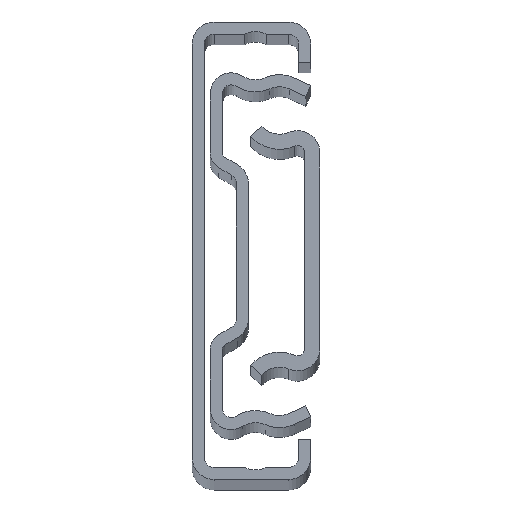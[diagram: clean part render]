
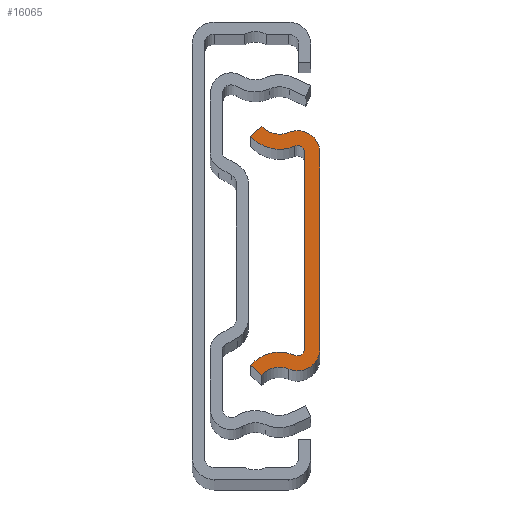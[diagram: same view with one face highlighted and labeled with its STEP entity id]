
A CAD part, top view. The second image highlights one B-rep face of the part: STEP entity #16065.
In plain terms, the highlighted planar face has unit normal (0, 0, 1).
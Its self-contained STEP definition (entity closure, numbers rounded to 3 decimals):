
#50 = EDGE_CURVE ( 'NONE', #3070, #2771, #9193, .T. ) ;
#151 = CARTESIAN_POINT ( 'NONE',  ( 3.45, -9.725, 0. ) ) ;
#260 = CARTESIAN_POINT ( 'NONE',  ( -3.45, -11.377, 0. ) ) ;
#686 = CARTESIAN_POINT ( 'NONE',  ( 0.36, -11.777, 0. ) ) ;
#710 = ORIENTED_EDGE ( 'NONE', *, *, #16009, .T. ) ;
#854 = DIRECTION ( 'NONE',  ( -1., 0., 0. ) ) ;
#921 = DIRECTION ( 'NONE',  ( -1., 0., 0. ) ) ;
#976 = AXIS2_PLACEMENT_3D ( 'NONE', #27260, #14117, #921 ) ;
#995 = VECTOR ( 'NONE', #4354, 1000. ) ;
#1054 = CIRCLE ( 'NONE', #13595, 2.226 ) ;
#1406 = DIRECTION ( 'NONE',  ( -0.745, -0.667, 0. ) ) ;
#1618 = CARTESIAN_POINT ( 'NONE',  ( 1.95, 9.725, 0. ) ) ;
#2044 = VECTOR ( 'NONE', #1406, 1000. ) ;
#2048 = ORIENTED_EDGE ( 'NONE', *, *, #21865, .T. ) ;
#2589 = LINE ( 'NONE', #151, #2620 ) ;
#2620 = VECTOR ( 'NONE', #17775, 1000. ) ;
#2675 = DIRECTION ( 'NONE',  ( 0., 0., -1. ) ) ;
#2771 = VERTEX_POINT ( 'NONE', #27132 ) ;
#2880 = CARTESIAN_POINT ( 'NONE',  ( -2.333, 12.378, 0. ) ) ;
#3070 = VERTEX_POINT ( 'NONE', #17514 ) ;
#3150 = ORIENTED_EDGE ( 'NONE', *, *, #11811, .T. ) ;
#3722 = DIRECTION ( 'NONE',  ( 1., 0., 0. ) ) ;
#3802 = DIRECTION ( 'NONE',  ( 0., 0., -1. ) ) ;
#4124 = AXIS2_PLACEMENT_3D ( 'NONE', #9343, #2675, #854 ) ;
#4354 = DIRECTION ( 'NONE',  ( 0., -1., 0. ) ) ;
#4655 = ORIENTED_EDGE ( 'NONE', *, *, #20999, .T. ) ;
#4959 = EDGE_CURVE ( 'NONE', #10484, #6837, #25604, .T. ) ;
#5243 = DIRECTION ( 'NONE',  ( -1., 0., 0. ) ) ;
#5394 = EDGE_CURVE ( 'NONE', #6837, #20802, #18077, .T. ) ;
#5418 = AXIS2_PLACEMENT_3D ( 'NONE', #25075, #17717, #15697 ) ;
#5489 = DIRECTION ( 'NONE',  ( 0., 0., 1. ) ) ;
#5522 = CARTESIAN_POINT ( 'NONE',  ( 3.45, -9.725, 0. ) ) ;
#5645 = CIRCLE ( 'NONE', #4124, 0.726 ) ;
#5875 = DIRECTION ( 'NONE',  ( 0., 0., -1. ) ) ;
#6517 = VECTOR ( 'NONE', #6645, 1000. ) ;
#6637 = AXIS2_PLACEMENT_3D ( 'NONE', #12794, #5875, #3722 ) ;
#6641 = VERTEX_POINT ( 'NONE', #1618 ) ;
#6645 = DIRECTION ( 'NONE',  ( 0.745, -0.667, 0. ) ) ;
#6689 = CARTESIAN_POINT ( 'NONE',  ( 1.224, -9.725, 0. ) ) ;
#6837 = VERTEX_POINT ( 'NONE', #15494 ) ;
#7107 = ORIENTED_EDGE ( 'NONE', *, *, #23931, .T. ) ;
#7122 = CARTESIAN_POINT ( 'NONE',  ( -0.564, -13.97, 0. ) ) ;
#7317 = CIRCLE ( 'NONE', #6637, 0.726 ) ;
#7422 = VERTEX_POINT ( 'NONE', #27681 ) ;
#7537 = AXIS2_PLACEMENT_3D ( 'NONE', #25980, #3802, #21586 ) ;
#7899 = CARTESIAN_POINT ( 'NONE',  ( -0.564, -13.97, 0. ) ) ;
#7929 = LINE ( 'NONE', #27842, #2044 ) ;
#8731 = ORIENTED_EDGE ( 'NONE', *, *, #18602, .T. ) ;
#8786 = EDGE_CURVE ( 'NONE', #21988, #20319, #1054, .T. ) ;
#8914 = CARTESIAN_POINT ( 'NONE',  ( -3.45, 11.377, 0. ) ) ;
#9193 = CIRCLE ( 'NONE', #27628, 3.88 ) ;
#9343 = CARTESIAN_POINT ( 'NONE',  ( 1.224, 9.725, 0. ) ) ;
#9405 = VERTEX_POINT ( 'NONE', #8914 ) ;
#9416 = FACE_OUTER_BOUND ( 'NONE', #21835, .T. ) ;
#10338 = ORIENTED_EDGE ( 'NONE', *, *, #12425, .T. ) ;
#10484 = VERTEX_POINT ( 'NONE', #19513 ) ;
#10736 = DIRECTION ( 'NONE',  ( 0., 0., 1. ) ) ;
#11175 = CARTESIAN_POINT ( 'NONE',  ( 0.942, 10.394, 0. ) ) ;
#11537 = AXIS2_PLACEMENT_3D ( 'NONE', #7899, #5489, #21044 ) ;
#11542 = DIRECTION ( 'NONE',  ( 0., 0., 1. ) ) ;
#11811 = EDGE_CURVE ( 'NONE', #20802, #9405, #7929, .T. ) ;
#12425 = EDGE_CURVE ( 'NONE', #2771, #21877, #28500, .T. ) ;
#12501 = VERTEX_POINT ( 'NONE', #11175 ) ;
#12794 = CARTESIAN_POINT ( 'NONE',  ( 1.224, -9.725, 0. ) ) ;
#13120 = ORIENTED_EDGE ( 'NONE', *, *, #24415, .T. ) ;
#13595 = AXIS2_PLACEMENT_3D ( 'NONE', #6689, #10736, #26052 ) ;
#14098 = LINE ( 'NONE', #22237, #995 ) ;
#14117 = DIRECTION ( 'NONE',  ( 0., 0., 1. ) ) ;
#15494 = CARTESIAN_POINT ( 'NONE',  ( 0.36, 11.777, 0. ) ) ;
#15697 = DIRECTION ( 'NONE',  ( -1., 0., 0. ) ) ;
#15930 = DIRECTION ( 'NONE',  ( 0., 0., 1. ) ) ;
#16009 = EDGE_CURVE ( 'NONE', #12501, #6641, #5645, .T. ) ;
#16065 = ADVANCED_FACE ( 'Face2', ( #9416 ), #25245, .T. ) ;
#16116 = CARTESIAN_POINT ( 'NONE',  ( -0.564, 13.97, 0. ) ) ;
#16405 = CIRCLE ( 'NONE', #21861, 3.88 ) ;
#17514 = CARTESIAN_POINT ( 'NONE',  ( 0.942, -10.394, 0. ) ) ;
#17717 = DIRECTION ( 'NONE',  ( 0., 0., -1. ) ) ;
#17775 = DIRECTION ( 'NONE',  ( 0., 1., 0. ) ) ;
#18077 = CIRCLE ( 'NONE', #5418, 2.38 ) ;
#18602 = EDGE_CURVE ( 'NONE', #21877, #21988, #25142, .T. ) ;
#19513 = CARTESIAN_POINT ( 'NONE',  ( 3.45, 9.725, 0. ) ) ;
#20319 = VERTEX_POINT ( 'NONE', #5522 ) ;
#20452 = DIRECTION ( 'NONE',  ( 1., 0., 0. ) ) ;
#20802 = VERTEX_POINT ( 'NONE', #2880 ) ;
#20999 = EDGE_CURVE ( 'NONE', #7422, #3070, #7317, .T. ) ;
#21044 = DIRECTION ( 'NONE',  ( 1., 0., 0. ) ) ;
#21586 = DIRECTION ( 'NONE',  ( 1., 0., 0. ) ) ;
#21787 = ORIENTED_EDGE ( 'NONE', *, *, #50, .T. ) ;
#21835 = EDGE_LOOP ( 'NONE', ( #8731, #26206, #7107, #25066, #24707, #3150, #13120, #710, #2048, #4655, #21787, #10338 ) ) ;
#21861 = AXIS2_PLACEMENT_3D ( 'NONE', #16116, #15930, #5243 ) ;
#21865 = EDGE_CURVE ( 'NONE', #6641, #7422, #14098, .T. ) ;
#21877 = VERTEX_POINT ( 'NONE', #24132 ) ;
#21988 = VERTEX_POINT ( 'NONE', #686 ) ;
#22237 = CARTESIAN_POINT ( 'NONE',  ( 1.95, -9.725, 0. ) ) ;
#23931 = EDGE_CURVE ( 'NONE', #20319, #10484, #2589, .T. ) ;
#24132 = CARTESIAN_POINT ( 'NONE',  ( -2.333, -12.378, 0. ) ) ;
#24415 = EDGE_CURVE ( 'NONE', #9405, #12501, #16405, .T. ) ;
#24707 = ORIENTED_EDGE ( 'NONE', *, *, #5394, .T. ) ;
#25066 = ORIENTED_EDGE ( 'NONE', *, *, #4959, .T. ) ;
#25075 = CARTESIAN_POINT ( 'NONE',  ( -0.564, 13.97, 0. ) ) ;
#25142 = CIRCLE ( 'NONE', #7537, 2.38 ) ;
#25245 = PLANE ( 'NONE',  #11537 ) ;
#25604 = CIRCLE ( 'NONE', #976, 2.226 ) ;
#25980 = CARTESIAN_POINT ( 'NONE',  ( -0.564, -13.97, 0. ) ) ;
#26052 = DIRECTION ( 'NONE',  ( 1., 0., 0. ) ) ;
#26206 = ORIENTED_EDGE ( 'NONE', *, *, #8786, .T. ) ;
#27132 = CARTESIAN_POINT ( 'NONE',  ( -3.45, -11.377, 0. ) ) ;
#27260 = CARTESIAN_POINT ( 'NONE',  ( 1.224, 9.725, 0. ) ) ;
#27628 = AXIS2_PLACEMENT_3D ( 'NONE', #7122, #11542, #20452 ) ;
#27681 = CARTESIAN_POINT ( 'NONE',  ( 1.95, -9.725, 0. ) ) ;
#27842 = CARTESIAN_POINT ( 'NONE',  ( -3.45, 11.377, 0. ) ) ;
#28500 = LINE ( 'NONE', #260, #6517 ) ;
